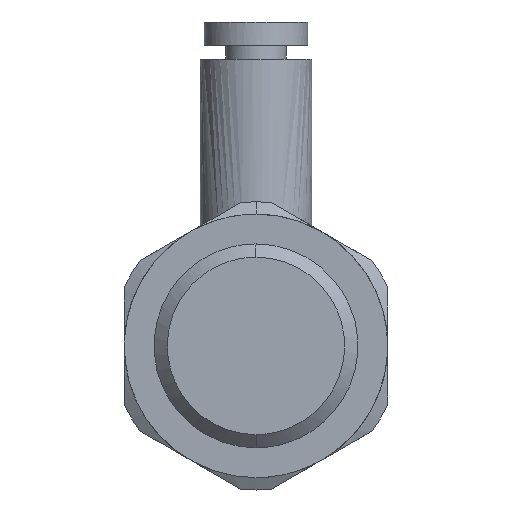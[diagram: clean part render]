
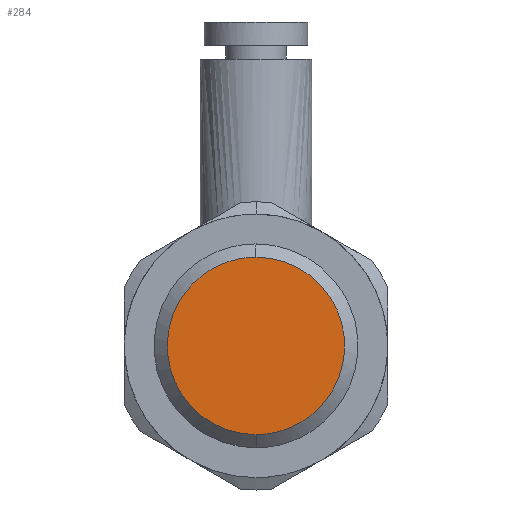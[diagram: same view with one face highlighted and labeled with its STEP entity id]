
A CAD part, front view. The second image highlights one B-rep face of the part: STEP entity #284.
In plain terms, the highlighted planar face has unit normal (0, -1, 0).
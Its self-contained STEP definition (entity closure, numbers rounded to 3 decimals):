
#9 = EDGE_LOOP ( 'NONE', ( #111, #2503 ) ) ;
#111 = ORIENTED_EDGE ( 'NONE', *, *, #1505, .F. ) ;
#284 = ADVANCED_FACE ( 'NONE', ( #1277 ), #1292, .T. ) ;
#373 = CARTESIAN_POINT ( 'NONE',  ( -5.791, -6.5, 5.791 ) ) ;
#595 = DIRECTION ( 'NONE',  ( 0., -1., 0. ) ) ;
#639 = CARTESIAN_POINT ( 'NONE',  ( 0., -6.5, 5.723 ) ) ;
#1117 = CARTESIAN_POINT ( 'NONE',  ( -11.445, -6.5, 5.723 ) ) ;
#1196 =( BOUNDED_CURVE ( )  B_SPLINE_CURVE ( 3, ( #1224, #2825, #1929, #1942 ),
 .UNSPECIFIED., .F., .T. ) 
 B_SPLINE_CURVE_WITH_KNOTS ( ( 4, 4 ),
 ( 0., 0.5 ),
 .UNSPECIFIED. ) 
 CURVE ( )  GEOMETRIC_REPRESENTATION_ITEM ( )  RATIONAL_B_SPLINE_CURVE ( ( 1., 0.333, 0.333, 1. ) ) 
 REPRESENTATION_ITEM ( '' )  );
#1224 = CARTESIAN_POINT ( 'NONE',  ( 0., -6.5, 5.723 ) ) ;
#1239 = VERTEX_POINT ( 'NONE', #639 ) ;
#1277 = FACE_OUTER_BOUND ( 'NONE', #9, .T. ) ;
#1292 = PLANE ( 'NONE',  #2731 ) ;
#1505 = EDGE_CURVE ( 'NONE', #1239, #2122, #1196, .T. ) ;
#1796 = CARTESIAN_POINT ( 'NONE',  ( 0., -6.5, 5.723 ) ) ;
#1839 = CARTESIAN_POINT ( 'NONE',  ( 0., -6.5, -5.723 ) ) ;
#1929 = CARTESIAN_POINT ( 'NONE',  ( 11.445, -6.5, -5.722 ) ) ;
#1942 = CARTESIAN_POINT ( 'NONE',  ( 0., -6.5, -5.723 ) ) ;
#2122 = VERTEX_POINT ( 'NONE', #1839 ) ;
#2256 = CARTESIAN_POINT ( 'NONE',  ( -11.445, -6.5, -5.723 ) ) ;
#2333 = EDGE_CURVE ( 'NONE', #2122, #1239, #2682, .T. ) ;
#2414 = DIRECTION ( 'NONE',  ( 0., 0., -1. ) ) ;
#2503 = ORIENTED_EDGE ( 'NONE', *, *, #2333, .F. ) ;
#2682 =( BOUNDED_CURVE ( )  B_SPLINE_CURVE ( 3, ( #2876, #2256, #1117, #1796 ),
 .UNSPECIFIED., .F., .F. ) 
 B_SPLINE_CURVE_WITH_KNOTS ( ( 4, 4 ),
 ( 0.5, 1. ),
 .UNSPECIFIED. ) 
 CURVE ( )  GEOMETRIC_REPRESENTATION_ITEM ( )  RATIONAL_B_SPLINE_CURVE ( ( 1., 0.333, 0.333, 1. ) ) 
 REPRESENTATION_ITEM ( '' )  );
#2731 = AXIS2_PLACEMENT_3D ( 'NONE', #373, #595, #2414 ) ;
#2825 = CARTESIAN_POINT ( 'NONE',  ( 11.445, -6.5, 5.723 ) ) ;
#2876 = CARTESIAN_POINT ( 'NONE',  ( 0., -6.5, -5.723 ) ) ;
